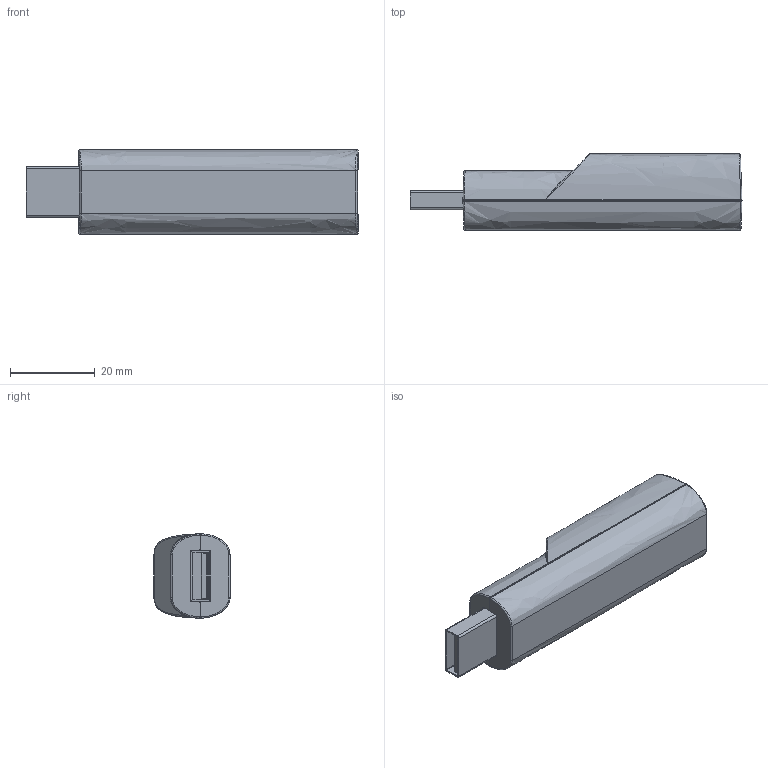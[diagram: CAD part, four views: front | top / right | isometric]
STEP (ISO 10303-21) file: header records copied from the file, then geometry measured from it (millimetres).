
FILE_DESCRIPTION (( 'STEP AP203' ), '1' );
FILE_NAME ('3D_TAD1.STEP', '2018-06-28T02:18:17', ( '' ), ( '' ), 'SwSTEP 2.0', 'SolidWorks 2015', '' );
FILE_SCHEMA (( 'CONFIG_CONTROL_DESIGN' ));
Length unit declared in the file: millimetre
Products named in the file (1): 3D_TAD1
Bounding box: 78.5 x 18 x 20 mm (x, y, z)
Volume: 19624.8 mm3; surface area: 8782.3 mm2
Topology: 4 solids, 4 shells, 183 faces, 460 edges, 284 vertices
Faces by surface type: plane 100, cylinder 51, bspline 28, cone 4
Entity records: 7083 total; most frequent: CARTESIAN_POINT 2838, ORIENTED_EDGE 904, DIRECTION 803, EDGE_CURVE 452, VECTOR 307, LINE 307, VERTEX_POINT 284, AXIS2_PLACEMENT_3D 248
